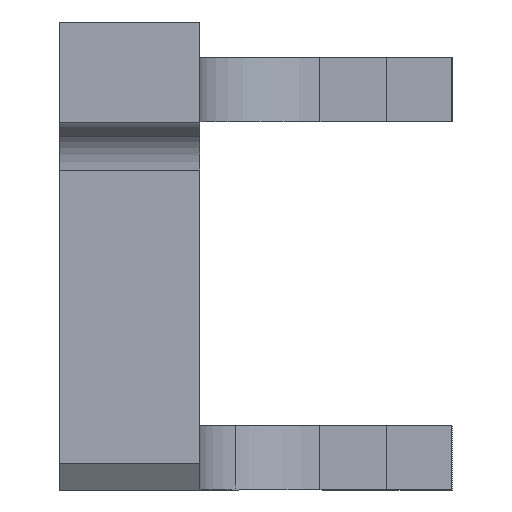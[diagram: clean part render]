
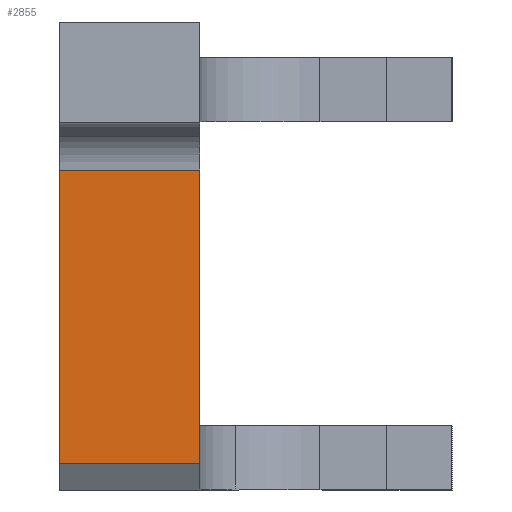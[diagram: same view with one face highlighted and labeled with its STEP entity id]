
A CAD part, left-side view. The second image highlights one B-rep face of the part: STEP entity #2855.
In plain terms, the highlighted free-form (B-spline) face has degree [1, 1] with [2, 2] control points.
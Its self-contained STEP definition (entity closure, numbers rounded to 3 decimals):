
#285=CARTESIAN_POINT('',(-57.155,3.326,-28.));
#286=VERTEX_POINT('',#285);
#294=CARTESIAN_POINT('',(-57.155,-31.674,-28.));
#295=VERTEX_POINT('',#294);
#296=CARTESIAN_POINT('',(-57.155,-31.674,-28.));
#297=DIRECTION('',(0.0,1.0,0.0));
#298=VECTOR('',#297,35.);
#299=LINE('',#296,#298);
#300=EDGE_CURVE('',#295,#286,#299,.T.);
#2758=CARTESIAN_POINT('',(-57.155,3.326,-101.301));
#2759=VERTEX_POINT('',#2758);
#2760=CARTESIAN_POINT('',(-57.155,3.326,-28.));
#2761=DIRECTION('',(0.0,0.0,-1.0));
#2762=VECTOR('',#2761,73.301);
#2763=LINE('',#2760,#2762);
#2764=EDGE_CURVE('',#286,#2759,#2763,.T.);
#2832=CARTESIAN_POINT('',(-57.155,3.326,-101.301));
#2833=CARTESIAN_POINT('',(-57.155,3.326,-28.));
#2834=CARTESIAN_POINT('',(-57.155,-31.674,-101.301));
#2835=CARTESIAN_POINT('',(-57.155,-31.674,-28.));
#2836=B_SPLINE_SURFACE_WITH_KNOTS('',1,1,((#2832,#2834),(#2833,#2835)),.UNSPECIFIED.,.F.,.F.,.U.,(2,2),(2,2),(0.0,73.301),(0.0,35.),.UNSPECIFIED.);
#2837=CARTESIAN_POINT('',(-57.155,-31.674,-101.301));
#2838=VERTEX_POINT('',#2837);
#2839=CARTESIAN_POINT('',(-57.155,-31.674,-101.301));
#2840=DIRECTION('',(0.0,0.0,1.0));
#2841=VECTOR('',#2840,73.301);
#2842=LINE('',#2839,#2841);
#2843=EDGE_CURVE('',#2838,#295,#2842,.T.);
#2844=ORIENTED_EDGE('',*,*,#2843,.T.);
#2845=ORIENTED_EDGE('',*,*,#300,.T.);
#2846=ORIENTED_EDGE('',*,*,#2764,.T.);
#2847=CARTESIAN_POINT('',(-57.155,-31.674,-101.301));
#2848=DIRECTION('',(0.0,1.0,0.0));
#2849=VECTOR('',#2848,35.);
#2850=LINE('',#2847,#2849);
#2851=EDGE_CURVE('',#2838,#2759,#2850,.T.);
#2852=ORIENTED_EDGE('',*,*,#2851,.F.);
#2853=EDGE_LOOP('',(#2844,#2845,#2846,#2852));
#2854=FACE_OUTER_BOUND('',#2853,.T.);
#2855=ADVANCED_FACE('',(#2854),#2836,.F.);
